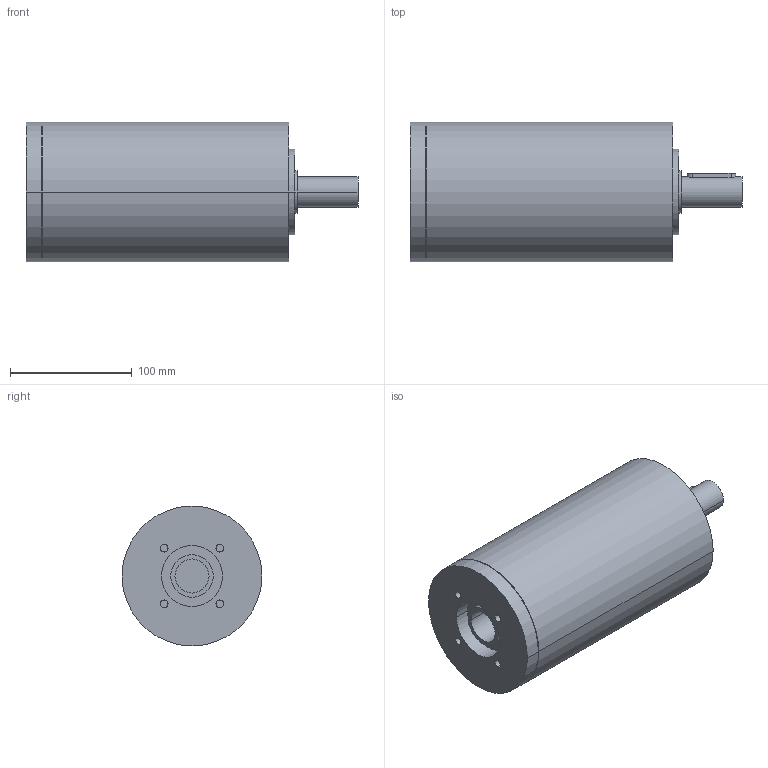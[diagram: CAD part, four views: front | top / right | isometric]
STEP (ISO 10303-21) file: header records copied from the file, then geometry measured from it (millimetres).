
FILE_DESCRIPTION(('CoCreate Modeling STEP Export'),'2;1');
FILE_NAME('GPR125_ig-48-64-80-100-140-196-245-343_25_B14_28_P10.stp','2014-08-26T14:22:50',(''),(''),'CoCreate Modeling STEP processor for AP214 (Solid Model)','CoCreate Modeling 16.00C 25-Feb-2009 (C) Parametric Technology GmbH','');
FILE_SCHEMA(('AUTOMOTIVE_DESIGN { 1 0 10303 214 1 1 1 1 }'));
Length unit declared in the file: millimetre
Products named in the file (2): GPR125_ig-48-64-80-100-140-196-245-343_25_B14_28_P10
Assembly tree (1 placements, depth 2):
  GPR125_ig-48-64-80-100-140-196-245-343_25_B14_28_P10
    GPR125_ig-48-64-80-100-140-196-245-343_25_B14_28_P10
Bounding box: 273 x 115 x 115 mm (x, y, z)
Volume: 2228691.5 mm3; surface area: 116721.6 mm2
Topology: 1 solids, 1 shells, 72 faces, 186 edges, 134 vertices
Faces by surface type: cylinder 44, plane 24, cone 4
Entity records: 1870 total; most frequent: ORIENTED_EDGE 368, CARTESIAN_POINT 349, DIRECTION 240, EDGE_CURVE 184, VERTEX_POINT 134, AXIS2_PLACEMENT_3D 93, EDGE_LOOP 92, FACE_OUTER_BOUND 72
